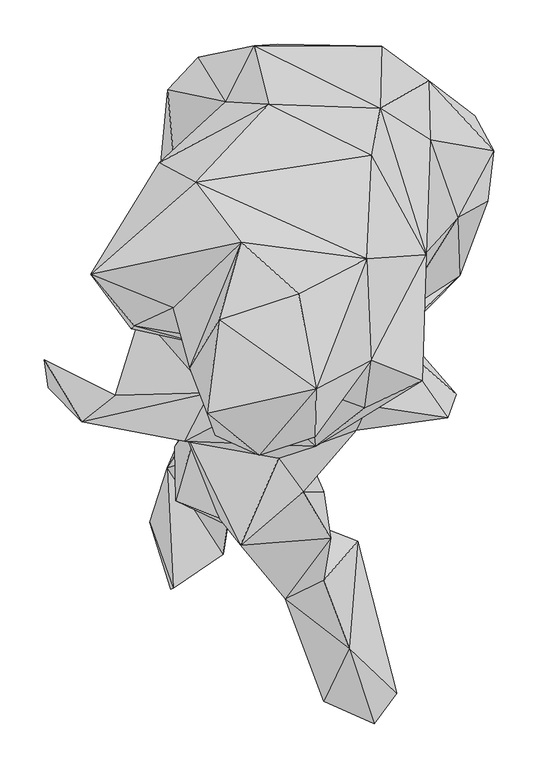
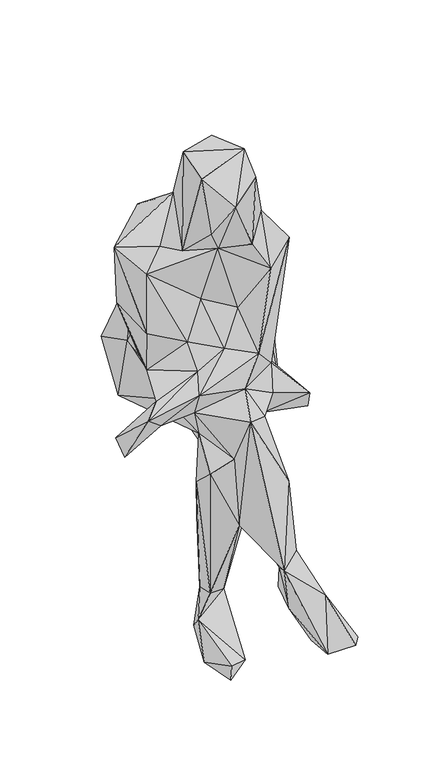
"""IFC4 building model written with IfcOpenShell, lengths in millimetres: geographic element geometry, Enscape AssetDefinition - Elsje 001 Sitting : Enscape AssetDefinition - Elsje 001 Sitting."""

from ifc_helpers import new_model, si_unit, origin, place, context, project, spatial, faceted_brep, source, transform, mapped, element, save


def geographic_element_00167db2(model_context):
    return source(origin(), model_context, "Body", "Brep", [
        faceted_brep([(-87.8057256, -150.565505, -0.2196754), (-176.9957244, -379.4464469, -5.0908416), (-200.9515762, -304.1055799, 6.2375055), (-117.8968772, -340.25684, 5.285373), (-174.6002585, -378.4595728, 30.5458661), (-181.3449115, -242.2695905, 74.9040097), (-145.7795203, -161.0098928, -1.378664), (-98.6358151, -211.9441032, 111.7471606), (-125.3246218, -152.9488713, 90.7547772), (-143.6254233, -230.8856249, 126.2988448), (-66.1676303, -238.0696535, 288.1129682), (-114.3807471, -306.5923154, 345.1580703), (-90.6936601, -171.543777, 292.4172282), (-172.6144999, -218.8953161, 428.0432463), (-141.3151473, -167.3817039, 295.2257991), (-171.7533469, -279.5973122, 485.5777323), (-141.3997412, -176.4282733, 522.2681165), (-95.9608033, -174.917981, 420.3361273), (-54.7384359, -183.4938228, 413.3575261), (-65.2839392, -240.1276529, 392.0188248), (34.1331139, -46.8801148, 415.4298007), (-1.1411313, 47.2633727, 442.8014755), (-106.3351408, -68.5240924, 465.2652144), (111.3618687, 110.8629704, 424.7120321), (148.9540488, -26.1210892, 470.9687233), (-110.5265468, 78.5097405, 420.1231599), (56.3153364, 201.4842033, 455.8284283), (-189.0783757, 95.098339, 476.2228131), (-56.1676323, 235.0696474, 462.2867107), (60.8829968, 233.2464308, 521.2147832), (165.6168997, 154.3590873, 493.717134), (180.6708127, 58.1995174, 580.7752013), (114.1327173, 194.1091865, 652.584374), (187.14118, 115.0221825, 581.6474557), (-83.045885, 233.6396724, 654.6125412), (59.0347983, 162.7830118, 829.3623328), (-146.4166641, 220.7722068, 557.2831035), (-66.8747723, 167.3466265, 854.9861312), (-115.0506362, 170.4370379, 724.3073583), (49.8395786, 109.9391431, 949.4458437), (111.21279, -2.3300557, 906.7177773), (115.4063269, 127.3665875, 732.3692441), (146.4114487, 39.4589193, 648.3985782), (84.1242522, -29.1881952, 686.4771843), (59.0515472, -146.9995081, 731.2808037), (73.2628405, -96.9746485, 606.5959334), (54.3271191, -73.4593496, 755.8706403), (71.8965754, -14.3683339, 638.8340592), (106.5404564, -144.6169019, 942.0496821), (44.8848084, -172.6999879, 643.7018514), (-13.3847361, -218.3774412, 718.0486321), (48.8411188, -121.5708926, 1020.2459097), (41.869618, -174.7179776, 900.0867605), (-54.5614921, -110.0977883, 947.6038814), (-21.5655304, -139.5855248, 795.3131199), (2.8128768, -161.0655785, 969.3133831), (-70.4238862, -165.1524007, 718.5564637), (-81.4528018, -81.7653686, 804.3442369), (-218.3974981, -82.1412727, 918.8501835), (-129.9984157, -106.0739979, 721.1766839), (-133.445695, -158.1720561, 674.3088365), (-161.3215357, -212.6203775, 651.0421634), (-221.6749936, -85.7158676, 761.7588639), (-211.186409, -68.8762516, 651.373148), (-174.5030433, -62.1803775, 966.4464593), (-267.6818967, -24.5295912, 973.7148285), (-236.110568, 20.0905129, 788.074553), (-148.7118602, 79.6936229, 985.6464267), (-190.2217716, 101.263769, 864.6808267), (-97.4820927, 12.0659666, 1039.6720171), (-155.8595449, -129.6527982, 988.8682961), (-122.6225719, -75.7366493, 1210.4295492), (-32.6597542, -46.074003, 1205.0428391), (43.9094603, -6.9863377, 1038.2068157), (-136.2228096, -181.3532561, 1204.4948339), (-13.2255731, -153.4986943, 1226.5957594), (-77.1360844, -228.7415266, 1138.1267309), (-14.2756384, -207.6253295, 1183.660984), (-126.9747913, -205.7789415, 1069.2486763), (-91.4792046, -175.7252663, 1001.0272264), (-180.6112677, 183.7095767, 577.6545405), (-171.9960421, 84.2599645, 624.8866916), (-146.4925855, 54.4974692, 725.5315185), (-190.0179535, -1.6082686, 639.423728), (-177.527234, -95.0838476, 577.1199465), (-163.9121175, -195.1770335, 596.9873667), (-241.5777743, -182.0661873, 580.9209347), (-239.8912311, -160.6814116, 633.0527663), (-319.7939098, -120.8973452, 538.8697386), (-277.6573598, -190.5521303, 610.4432344), (-315.2490258, -152.0179808, 504.0744543), (-55.0925247, -231.7256033, 644.8767781), (-97.9609564, -329.7147751, 629.4772029), (32.0074223, -200.3198117, 584.1614604), (-27.4964422, -269.7203755, 584.6132636), (-25.8677732, -219.6911871, 509.9205375), (27.8791599, -166.4774418, 513.4599805), (135.0722164, -185.9958768, 539.1288996), (144.6919888, -159.3869776, 485.7320487), (85.1019919, -91.0277665, 467.6234126), (-4.3799966, -269.6843445, 422.6430058), (75.4954368, -73.7930164, 583.1292868), (-60.054563, -300.6924987, 293.7639654), (-48.0999351, -390.2514875, 250.6751716), (-28.880816, -334.7120583, 218.4234113), (-122.1652403, -299.5899022, 520.8877325), (3.1472805, -322.0036328, 432.3634505), (-4.6301265, -369.2336977, 277.125448), (-15.0210867, -306.0314655, 145.26999), (23.9466634, -446.1310208, 194.1066384), (33.8836014, -325.1369596, 158.1755877), (-39.7555344, -396.9837725, 150.9184837), (-8.5870484, -440.4311478, 80.5638283), (77.6037872, -496.9546199, 94.0622762), (-4.4419426, -505.7860017, 80.5533305), (52.3988158, -531.1363935, 99.9832824)], [[[0, 1, 2]], [[3, 4, 1]], [[0, 3, 1]], [[2, 1, 4]], [[5, 2, 4]], [[6, 0, 2]], [[5, 6, 2]], [[0, 7, 3]], [[6, 8, 0]], [[0, 8, 7]], [[7, 5, 3]], [[3, 5, 4]], [[9, 5, 7]], [[9, 8, 5]], [[8, 6, 5]], [[10, 11, 7]], [[12, 10, 7]], [[7, 11, 9]], [[12, 7, 8]], [[8, 13, 14]], [[14, 12, 8]], [[13, 8, 9]], [[15, 13, 9]], [[11, 15, 9]], [[16, 13, 15]], [[17, 14, 13]], [[16, 17, 13]], [[17, 12, 14]], [[18, 19, 12]], [[18, 12, 17]], [[12, 19, 10]], [[20, 18, 17]], [[21, 20, 17]], [[22, 17, 16]], [[22, 21, 17]], [[21, 23, 20]], [[23, 24, 20]], [[20, 24, 18]], [[25, 26, 21]], [[26, 23, 21]], [[22, 25, 21]], [[16, 25, 22]], [[27, 25, 16]], [[28, 25, 27]], [[26, 25, 28]], [[29, 26, 28]], [[26, 30, 23]], [[29, 30, 26]], [[23, 30, 24]], [[31, 24, 30]], [[32, 33, 30]], [[33, 31, 30]], [[29, 32, 30]], [[34, 29, 28]], [[34, 35, 29]], [[32, 29, 35]], [[34, 28, 36]], [[27, 36, 28]], [[37, 34, 38]], [[34, 36, 38]], [[37, 35, 34]], [[35, 39, 40]], [[37, 39, 35]], [[41, 35, 40]], [[41, 32, 35]], [[32, 41, 33]], [[42, 41, 43]], [[41, 40, 43]], [[33, 41, 42]], [[43, 44, 45]], [[46, 44, 43]], [[47, 43, 45]], [[43, 40, 46]], [[42, 43, 47]], [[46, 40, 44]], [[44, 48, 49]], [[45, 44, 49]], [[44, 40, 48]], [[50, 49, 48]], [[51, 52, 48]], [[40, 51, 48]], [[48, 52, 50]], [[53, 54, 52]], [[55, 53, 52]], [[52, 54, 50]], [[51, 55, 52]], [[56, 54, 57]], [[56, 50, 54]], [[53, 57, 54]], [[58, 59, 57]], [[58, 57, 53]], [[56, 57, 59]], [[56, 59, 60]], [[56, 60, 61]], [[50, 56, 61]], [[62, 63, 59]], [[58, 62, 59]], [[59, 63, 60]], [[64, 58, 53]], [[64, 65, 58]], [[65, 62, 58]], [[62, 65, 66]], [[62, 66, 63]], [[67, 68, 65]], [[69, 65, 64]], [[68, 66, 65]], [[69, 67, 65]], [[64, 70, 69]], [[64, 53, 70]], [[69, 70, 71]], [[71, 72, 69]], [[69, 72, 73]], [[67, 69, 73]], [[71, 70, 74]], [[75, 71, 74]], [[75, 72, 71]], [[73, 72, 75]], [[75, 51, 73]], [[40, 73, 51]], [[73, 40, 39]], [[39, 67, 73]], [[75, 74, 76]], [[75, 77, 51]], [[75, 76, 77]], [[70, 78, 74]], [[76, 74, 78]], [[55, 77, 76]], [[76, 78, 79]], [[55, 76, 79]], [[51, 77, 55]], [[79, 53, 55]], [[70, 79, 78]], [[79, 70, 53]], [[67, 39, 37]], [[68, 37, 38]], [[68, 67, 37]], [[80, 81, 38]], [[68, 38, 82]], [[38, 81, 82]], [[80, 38, 36]], [[66, 68, 82]], [[66, 82, 83]], [[82, 81, 83]], [[81, 27, 84]], [[80, 27, 81]], [[83, 81, 84]], [[80, 36, 27]], [[27, 16, 84]], [[84, 85, 86]], [[63, 84, 87]], [[84, 16, 85]], [[87, 84, 86]], [[63, 83, 84]], [[63, 66, 83]], [[63, 87, 60]], [[87, 88, 89]], [[60, 87, 89]], [[87, 86, 88]], [[60, 89, 61]], [[90, 89, 88]], [[86, 89, 90]], [[89, 86, 61]], [[90, 88, 86]], [[61, 86, 85]], [[50, 61, 91]], [[91, 61, 85]], [[85, 92, 91]], [[91, 93, 49]], [[91, 92, 94]], [[93, 91, 94]], [[49, 50, 91]], [[93, 95, 96]], [[96, 97, 93]], [[93, 94, 95]], [[49, 93, 97]], [[45, 49, 97]], [[96, 98, 97]], [[45, 97, 98]], [[99, 98, 96]], [[99, 96, 95]], [[95, 100, 18]], [[95, 94, 100]], [[18, 99, 95]], [[24, 99, 18]], [[99, 45, 98]], [[99, 24, 45]], [[24, 101, 45]], [[47, 45, 101]], [[42, 101, 24]], [[31, 42, 24]], [[42, 47, 101]], [[33, 42, 31]], [[18, 100, 19]], [[19, 100, 10]], [[11, 10, 102]], [[10, 100, 102]], [[102, 103, 11]], [[100, 104, 102]], [[103, 102, 104]], [[105, 15, 11]], [[92, 11, 103]], [[105, 11, 92]], [[16, 15, 105]], [[105, 92, 85]], [[85, 16, 105]], [[92, 103, 106]], [[106, 94, 92]], [[100, 106, 104]], [[94, 106, 100]], [[106, 103, 107]], [[104, 106, 107]], [[104, 107, 108]], [[107, 109, 110]], [[107, 103, 109]], [[108, 107, 110]], [[104, 108, 111]], [[108, 112, 111]], [[108, 110, 112]], [[112, 110, 113]], [[110, 109, 113]], [[111, 112, 114]], [[112, 113, 114]], [[103, 111, 114]], [[103, 104, 111]], [[103, 114, 109]], [[109, 114, 115]], [[109, 115, 113]], [[113, 115, 114]]]),
    ])


if __name__ == "__main__":
    model = new_model("IFC4")
    model_context = context("Model", 3, world=origin())
    ifc_project = project(units=[si_unit("LENGTHUNIT", "METRE", prefix="MILLI")], contexts=[model_context])
    site = spatial("IfcSite", under=ifc_project)
    building = spatial("IfcBuilding", under=site)
    placement = place(None, origin())
    geographic_element_shape = geographic_element_00167db2(model_context)
    element("IfcGeographicElement", 1, ObjectType="Enscape AssetDefinition - Elsje 001 Sitting : Enscape AssetDefinition - Elsje 001 Sitting", at=placement, inside=building, context=model_context, shape_type="MappedRepresentation", body=[
        mapped(geographic_element_shape, transform((0.0, 0.0, 0.0), x_axis=(1.0, 0.0, 0.0), y_axis=(0.0, 1.0, 0.0), z_axis=(0.0, 0.0, 1.0))),
    ])
    save(model, "model.ifc")
